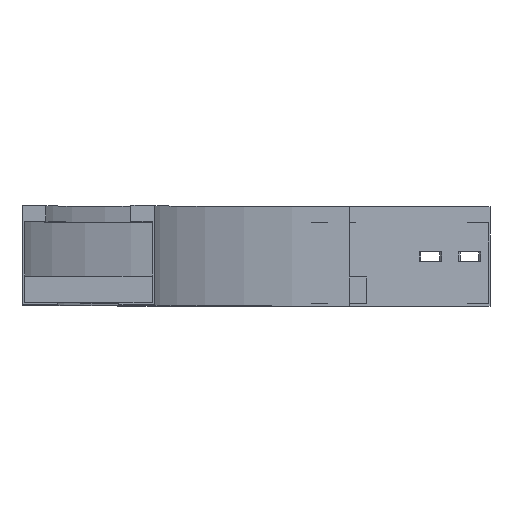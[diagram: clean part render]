
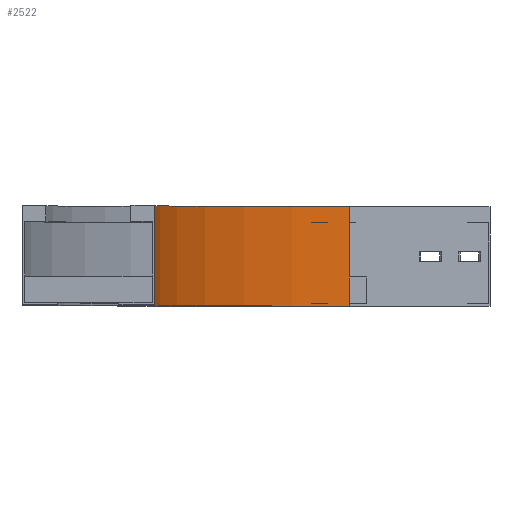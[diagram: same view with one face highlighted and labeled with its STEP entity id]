
A CAD part, top view. The second image highlights one B-rep face of the part: STEP entity #2522.
In plain terms, the highlighted cylindrical face has radius 500 mm (diameter 1000 mm), a partial arc.
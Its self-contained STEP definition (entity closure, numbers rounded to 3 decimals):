
#135 = FACE_OUTER_BOUND ( 'NONE', #2446, .T. ) ;
#186 = CARTESIAN_POINT ( 'NONE',  ( 0., 0., -150. ) ) ;
#195 = VERTEX_POINT ( 'NONE', #2570 ) ;
#493 = CARTESIAN_POINT ( 'NONE',  ( 146.447, 75., -503.553 ) ) ;
#528 = CARTESIAN_POINT ( 'NONE',  ( 500., 0., -150. ) ) ;
#585 = DIRECTION ( 'NONE',  ( 0., -1., 0. ) ) ;
#607 = DIRECTION ( 'NONE',  ( -1., 0., 0. ) ) ;
#811 = LINE ( 'NONE', #2894, #3180 ) ;
#899 = DIRECTION ( 'NONE',  ( 0., 1., 0. ) ) ;
#1005 = CIRCLE ( 'NONE', #3176, 500. ) ;
#1189 = LINE ( 'NONE', #2363, #3550 ) ;
#1595 = CARTESIAN_POINT ( 'NONE',  ( 500., 0., -150. ) ) ;
#1666 = DIRECTION ( 'NONE',  ( 0., 1., 0. ) ) ;
#1676 = AXIS2_PLACEMENT_3D ( 'NONE', #2504, #3702, #2583 ) ;
#1697 = ORIENTED_EDGE ( 'NONE', *, *, #2737, .T. ) ;
#1858 = CIRCLE ( 'NONE', #1676, 500. ) ;
#1924 = ORIENTED_EDGE ( 'NONE', *, *, #3045, .T. ) ;
#2246 = EDGE_CURVE ( 'NONE', #195, #3205, #1858, .T. ) ;
#2347 = EDGE_CURVE ( 'NONE', #2979, #195, #1189, .T. ) ;
#2363 = CARTESIAN_POINT ( 'NONE',  ( 0., 0., -150. ) ) ;
#2446 = EDGE_LOOP ( 'NONE', ( #2680, #3125, #1697, #1924 ) ) ;
#2504 = CARTESIAN_POINT ( 'NONE',  ( 500., 75., -150. ) ) ;
#2522 = ADVANCED_FACE ( 'NONE', ( #135 ), #2874, .F. ) ;
#2570 = CARTESIAN_POINT ( 'NONE',  ( 0., 75., -150. ) ) ;
#2583 = DIRECTION ( 'NONE',  ( -1., 0., 0. ) ) ;
#2680 = ORIENTED_EDGE ( 'NONE', *, *, #2246, .F. ) ;
#2737 = EDGE_CURVE ( 'NONE', #2979, #3002, #1005, .T. ) ;
#2874 = CYLINDRICAL_SURFACE ( 'NONE', #3052, 500. ) ;
#2894 = CARTESIAN_POINT ( 'NONE',  ( 146.447, 0., -503.553 ) ) ;
#2979 = VERTEX_POINT ( 'NONE', #186 ) ;
#3002 = VERTEX_POINT ( 'NONE', #3492 ) ;
#3045 = EDGE_CURVE ( 'NONE', #3002, #3205, #811, .T. ) ;
#3052 = AXIS2_PLACEMENT_3D ( 'NONE', #1595, #3458, #3398 ) ;
#3125 = ORIENTED_EDGE ( 'NONE', *, *, #2347, .F. ) ;
#3176 = AXIS2_PLACEMENT_3D ( 'NONE', #528, #585, #607 ) ;
#3180 = VECTOR ( 'NONE', #1666, 1000. ) ;
#3205 = VERTEX_POINT ( 'NONE', #493 ) ;
#3398 = DIRECTION ( 'NONE',  ( 0., 0., -1. ) ) ;
#3458 = DIRECTION ( 'NONE',  ( 0., -1., 0. ) ) ;
#3492 = CARTESIAN_POINT ( 'NONE',  ( 146.447, 0., -503.553 ) ) ;
#3550 = VECTOR ( 'NONE', #899, 1000. ) ;
#3702 = DIRECTION ( 'NONE',  ( 0., -1., 0. ) ) ;
